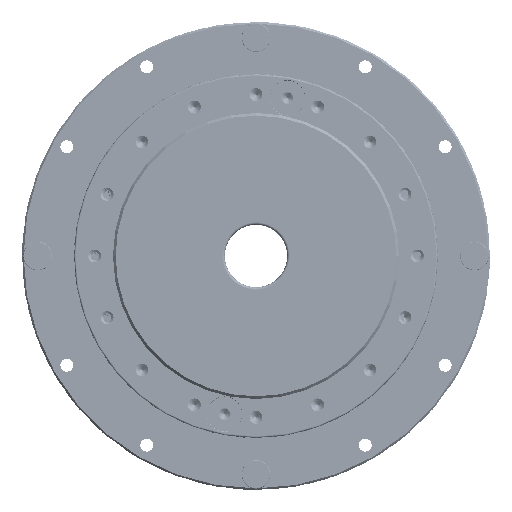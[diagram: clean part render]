
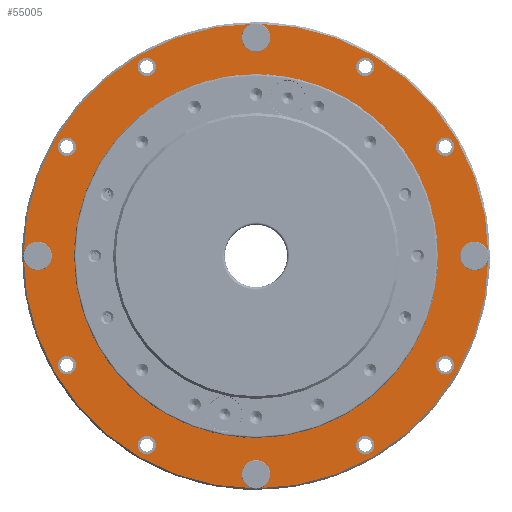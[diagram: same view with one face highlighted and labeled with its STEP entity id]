
A CAD part, left-side view. The second image highlights one B-rep face of the part: STEP entity #55005.
In plain terms, the highlighted planar face has unit normal (-1, 0, 0) as drawn and (0, 1, 0) by its records, which use the part's own axes.
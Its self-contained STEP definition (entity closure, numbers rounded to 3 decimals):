
#64 = CARTESIAN_POINT ( 'NONE',  ( 0., 17.5, -44.7 ) ) ;
#353 = VERTEX_POINT ( 'NONE', #6101 ) ;
#782 = EDGE_CURVE ( 'NONE', #353, #353, #18920, .T. ) ;
#1560 = DIRECTION ( 'NONE',  ( 0., 0., -1. ) ) ;
#1817 = DIRECTION ( 'NONE',  ( 0., 0., 1. ) ) ;
#2067 = DIRECTION ( 'NONE',  ( 0., 0., 1. ) ) ;
#2357 = VERTEX_POINT ( 'NONE', #69517 ) ;
#3488 = FACE_BOUND ( 'NONE', #37042, .T. ) ;
#3945 = EDGE_CURVE ( 'NONE', #67061, #67061, #34757, .T. ) ;
#4111 = CIRCLE ( 'NONE', #21321, 1.75 ) ;
#4480 = ORIENTED_EDGE ( 'NONE', *, *, #36741, .T. ) ;
#4549 = EDGE_CURVE ( 'NONE', #2357, #2357, #19358, .T. ) ;
#5056 = AXIS2_PLACEMENT_3D ( 'NONE', #7820, #57733, #43881 ) ;
#6072 = CARTESIAN_POINT ( 'NONE',  ( 0., 17.5, 0. ) ) ;
#6101 = CARTESIAN_POINT ( 'NONE',  ( -21., 17.5, -34.623 ) ) ;
#6641 = EDGE_CURVE ( 'NONE', #6901, #6901, #62558, .T. ) ;
#6897 = CARTESIAN_POINT ( 'NONE',  ( 0., 17.5, 0. ) ) ;
#6901 = VERTEX_POINT ( 'NONE', #51112 ) ;
#7330 = FACE_BOUND ( 'NONE', #36587, .T. ) ;
#7820 = CARTESIAN_POINT ( 'NONE',  ( 36.373, 17.5, 21. ) ) ;
#8125 = EDGE_LOOP ( 'NONE', ( #41238 ) ) ;
#8200 = DIRECTION ( 'NONE',  ( 0., -1., 0. ) ) ;
#8606 = CIRCLE ( 'NONE', #45239, 1.75 ) ;
#8666 = DIRECTION ( 'NONE',  ( 0., -1., 0. ) ) ;
#8796 = ORIENTED_EDGE ( 'NONE', *, *, #80816, .T. ) ;
#9113 = CARTESIAN_POINT ( 'NONE',  ( 0., 17.5, -40.25 ) ) ;
#9238 = DIRECTION ( 'NONE',  ( 0., 1., 0. ) ) ;
#9630 = FACE_BOUND ( 'NONE', #80796, .T. ) ;
#9870 = DIRECTION ( 'NONE',  ( 0., -1., 0. ) ) ;
#9921 = ORIENTED_EDGE ( 'NONE', *, *, #6641, .T. ) ;
#9923 = VERTEX_POINT ( 'NONE', #72539 ) ;
#11016 = CARTESIAN_POINT ( 'NONE',  ( 42., 17.5, 1.75 ) ) ;
#11808 = EDGE_CURVE ( 'NONE', #72715, #72715, #45700, .T. ) ;
#12256 = EDGE_LOOP ( 'NONE', ( #4480 ) ) ;
#12875 = DIRECTION ( 'NONE',  ( 0., 0., 1. ) ) ;
#14800 = ORIENTED_EDGE ( 'NONE', *, *, #4549, .T. ) ;
#14877 = ORIENTED_EDGE ( 'NONE', *, *, #11808, .T. ) ;
#17509 = EDGE_LOOP ( 'NONE', ( #69725 ) ) ;
#18368 = AXIS2_PLACEMENT_3D ( 'NONE', #32868, #8666, #76235 ) ;
#18785 = DIRECTION ( 'NONE',  ( 0., 0., 1. ) ) ;
#18920 = CIRCLE ( 'NONE', #62060, 1.75 ) ;
#19358 = CIRCLE ( 'NONE', #36317, 1.75 ) ;
#20017 = DIRECTION ( 'NONE',  ( 0., 1., 0. ) ) ;
#20049 = FACE_BOUND ( 'NONE', #77141, .T. ) ;
#20306 = CIRCLE ( 'NONE', #21570, 1.75 ) ;
#21321 = AXIS2_PLACEMENT_3D ( 'NONE', #26686, #57330, #2067 ) ;
#21535 = FACE_BOUND ( 'NONE', #78054, .T. ) ;
#21570 = AXIS2_PLACEMENT_3D ( 'NONE', #44725, #63511, #51249 ) ;
#22098 = DIRECTION ( 'NONE',  ( 0., -1., 0. ) ) ;
#22184 = DIRECTION ( 'NONE',  ( 0., 0., 1. ) ) ;
#22495 = ORIENTED_EDGE ( 'NONE', *, *, #58450, .T. ) ;
#22720 = EDGE_LOOP ( 'NONE', ( #24167 ) ) ;
#23012 = VERTEX_POINT ( 'NONE', #29175 ) ;
#24167 = ORIENTED_EDGE ( 'NONE', *, *, #30298, .T. ) ;
#24773 = AXIS2_PLACEMENT_3D ( 'NONE', #69449, #39164, #57152 ) ;
#24877 = ORIENTED_EDGE ( 'NONE', *, *, #3945, .T. ) ;
#25173 = VERTEX_POINT ( 'NONE', #44801 ) ;
#25796 = DIRECTION ( 'NONE',  ( 0., 0., 1. ) ) ;
#25882 = CARTESIAN_POINT ( 'NONE',  ( 21., 17.5, -34.623 ) ) ;
#26025 = CARTESIAN_POINT ( 'NONE',  ( 21., 17.5, 36.373 ) ) ;
#26211 = FACE_BOUND ( 'NONE', #57447, .T. ) ;
#26686 = CARTESIAN_POINT ( 'NONE',  ( -21., 17.5, 36.373 ) ) ;
#27964 = ORIENTED_EDGE ( 'NONE', *, *, #35693, .T. ) ;
#28400 = CARTESIAN_POINT ( 'NONE',  ( 21., 17.5, 38.123 ) ) ;
#29093 = CIRCLE ( 'NONE', #74833, 1.75 ) ;
#29175 = CARTESIAN_POINT ( 'NONE',  ( -21., 17.5, 38.123 ) ) ;
#30037 = CARTESIAN_POINT ( 'NONE',  ( -42., 17.5, 1.75 ) ) ;
#30298 = EDGE_CURVE ( 'NONE', #25173, #25173, #62745, .T. ) ;
#30914 = CARTESIAN_POINT ( 'NONE',  ( -36.373, 17.5, 22.75 ) ) ;
#31053 = DIRECTION ( 'NONE',  ( 0., -1., 0. ) ) ;
#31300 = CIRCLE ( 'NONE', #24773, 1.75 ) ;
#32265 = DIRECTION ( 'NONE',  ( 0., -1., 0. ) ) ;
#32868 = CARTESIAN_POINT ( 'NONE',  ( 36.373, 17.5, -21. ) ) ;
#33507 = AXIS2_PLACEMENT_3D ( 'NONE', #64266, #8200, #45877 ) ;
#34605 = FACE_BOUND ( 'NONE', #12256, .T. ) ;
#34757 = CIRCLE ( 'NONE', #33507, 1.75 ) ;
#34936 = VERTEX_POINT ( 'NONE', #30037 ) ;
#35693 = EDGE_CURVE ( 'NONE', #58625, #58625, #29093, .T. ) ;
#36317 = AXIS2_PLACEMENT_3D ( 'NONE', #67882, #36794, #75242 ) ;
#36587 = EDGE_LOOP ( 'NONE', ( #8796 ) ) ;
#36741 = EDGE_CURVE ( 'NONE', #23012, #23012, #4111, .T. ) ;
#36794 = DIRECTION ( 'NONE',  ( 0., -1., 0. ) ) ;
#37042 = EDGE_LOOP ( 'NONE', ( #14877 ) ) ;
#38456 = CARTESIAN_POINT ( 'NONE',  ( -44.7, 17.5, 0. ) ) ;
#39130 = AXIS2_PLACEMENT_3D ( 'NONE', #6072, #31053, #74429 ) ;
#39164 = DIRECTION ( 'NONE',  ( 0., -1., 0. ) ) ;
#39733 = ORIENTED_EDGE ( 'NONE', *, *, #782, .T. ) ;
#39925 = EDGE_LOOP ( 'NONE', ( #14800 ) ) ;
#40788 = EDGE_CURVE ( 'NONE', #56532, #56532, #20306, .T. ) ;
#41199 = EDGE_CURVE ( 'NONE', #63892, #63892, #51608, .T. ) ;
#41238 = ORIENTED_EDGE ( 'NONE', *, *, #41199, .T. ) ;
#42978 = CIRCLE ( 'NONE', #56046, 1.75 ) ;
#43001 = EDGE_LOOP ( 'NONE', ( #65957 ) ) ;
#43881 = DIRECTION ( 'NONE',  ( 0., 0., 1. ) ) ;
#44725 = CARTESIAN_POINT ( 'NONE',  ( 21., 17.5, -36.373 ) ) ;
#44801 = CARTESIAN_POINT ( 'NONE',  ( 36.373, 17.5, -19.25 ) ) ;
#45025 = FACE_BOUND ( 'NONE', #39925, .T. ) ;
#45239 = AXIS2_PLACEMENT_3D ( 'NONE', #64735, #9870, #22184 ) ;
#45700 = CIRCLE ( 'NONE', #39130, 33.75 ) ;
#45877 = DIRECTION ( 'NONE',  ( 0., 0., 1. ) ) ;
#46578 = CARTESIAN_POINT ( 'NONE',  ( 0., 17.5, -33.75 ) ) ;
#47691 = AXIS2_PLACEMENT_3D ( 'NONE', #6897, #20017, #1560 ) ;
#49329 = VERTEX_POINT ( 'NONE', #30914 ) ;
#50762 = CIRCLE ( 'NONE', #61189, 1.75 ) ;
#51112 = CARTESIAN_POINT ( 'NONE',  ( 36.373, 17.5, 22.75 ) ) ;
#51141 = FACE_BOUND ( 'NONE', #17509, .T. ) ;
#51249 = DIRECTION ( 'NONE',  ( 0., 0., 1. ) ) ;
#51608 = CIRCLE ( 'NONE', #47691, 44.7 ) ;
#55005 = ADVANCED_FACE ( 'NONE', ( #65291, #9630, #57662, #77577, #7330, #26211, #34605, #45025, #51141, #69954, #20049, #59532, #21535, #3488 ), #63407, .T. ) ;
#56046 = AXIS2_PLACEMENT_3D ( 'NONE', #26025, #75919, #1817 ) ;
#56532 = VERTEX_POINT ( 'NONE', #25882 ) ;
#57152 = DIRECTION ( 'NONE',  ( 0., 0., 1. ) ) ;
#57330 = DIRECTION ( 'NONE',  ( 0., -1., 0. ) ) ;
#57447 = EDGE_LOOP ( 'NONE', ( #22495 ) ) ;
#57662 = FACE_BOUND ( 'NONE', #67172, .T. ) ;
#57733 = DIRECTION ( 'NONE',  ( 0., -1., 0. ) ) ;
#58450 = EDGE_CURVE ( 'NONE', #49329, #49329, #8606, .T. ) ;
#58625 = VERTEX_POINT ( 'NONE', #9113 ) ;
#59532 = FACE_BOUND ( 'NONE', #22720, .T. ) ;
#60110 = CARTESIAN_POINT ( 'NONE',  ( -42., 17.5, 0. ) ) ;
#61189 = AXIS2_PLACEMENT_3D ( 'NONE', #60110, #22098, #72013 ) ;
#61981 = DIRECTION ( 'NONE',  ( 0., -1., 0. ) ) ;
#62060 = AXIS2_PLACEMENT_3D ( 'NONE', #68113, #61981, #12875 ) ;
#62278 = ORIENTED_EDGE ( 'NONE', *, *, #40788, .T. ) ;
#62541 = CARTESIAN_POINT ( 'NONE',  ( 0., 17.5, -42. ) ) ;
#62558 = CIRCLE ( 'NONE', #5056, 1.75 ) ;
#62745 = CIRCLE ( 'NONE', #18368, 1.75 ) ;
#63407 = PLANE ( 'NONE',  #69863 ) ;
#63511 = DIRECTION ( 'NONE',  ( 0., -1., 0. ) ) ;
#63892 = VERTEX_POINT ( 'NONE', #64 ) ;
#64266 = CARTESIAN_POINT ( 'NONE',  ( 42., 17.5, 0. ) ) ;
#64735 = CARTESIAN_POINT ( 'NONE',  ( -36.373, 17.5, 21. ) ) ;
#65291 = FACE_OUTER_BOUND ( 'NONE', #8125, .T. ) ;
#65849 = EDGE_LOOP ( 'NONE', ( #9921 ) ) ;
#65957 = ORIENTED_EDGE ( 'NONE', *, *, #68151, .T. ) ;
#67061 = VERTEX_POINT ( 'NONE', #11016 ) ;
#67172 = EDGE_LOOP ( 'NONE', ( #39733 ) ) ;
#67186 = EDGE_CURVE ( 'NONE', #71339, #71339, #42978, .T. ) ;
#67882 = CARTESIAN_POINT ( 'NONE',  ( 0., 17.5, 42. ) ) ;
#68113 = CARTESIAN_POINT ( 'NONE',  ( -21., 17.5, -36.373 ) ) ;
#68151 = EDGE_CURVE ( 'NONE', #9923, #9923, #31300, .T. ) ;
#69449 = CARTESIAN_POINT ( 'NONE',  ( -36.373, 17.5, -21. ) ) ;
#69517 = CARTESIAN_POINT ( 'NONE',  ( 0., 17.5, 43.75 ) ) ;
#69725 = ORIENTED_EDGE ( 'NONE', *, *, #67186, .T. ) ;
#69863 = AXIS2_PLACEMENT_3D ( 'NONE', #38456, #9238, #25796 ) ;
#69954 = FACE_BOUND ( 'NONE', #65849, .T. ) ;
#71339 = VERTEX_POINT ( 'NONE', #28400 ) ;
#72013 = DIRECTION ( 'NONE',  ( 0., 0., 1. ) ) ;
#72539 = CARTESIAN_POINT ( 'NONE',  ( -36.373, 17.5, -19.25 ) ) ;
#72715 = VERTEX_POINT ( 'NONE', #46578 ) ;
#74429 = DIRECTION ( 'NONE',  ( 0., 0., -1. ) ) ;
#74833 = AXIS2_PLACEMENT_3D ( 'NONE', #62541, #32265, #18785 ) ;
#75242 = DIRECTION ( 'NONE',  ( 0., 0., 1. ) ) ;
#75919 = DIRECTION ( 'NONE',  ( 0., -1., 0. ) ) ;
#76235 = DIRECTION ( 'NONE',  ( 0., 0., 1. ) ) ;
#77141 = EDGE_LOOP ( 'NONE', ( #24877 ) ) ;
#77577 = FACE_BOUND ( 'NONE', #43001, .T. ) ;
#78054 = EDGE_LOOP ( 'NONE', ( #62278 ) ) ;
#80796 = EDGE_LOOP ( 'NONE', ( #27964 ) ) ;
#80816 = EDGE_CURVE ( 'NONE', #34936, #34936, #50762, .T. ) ;
